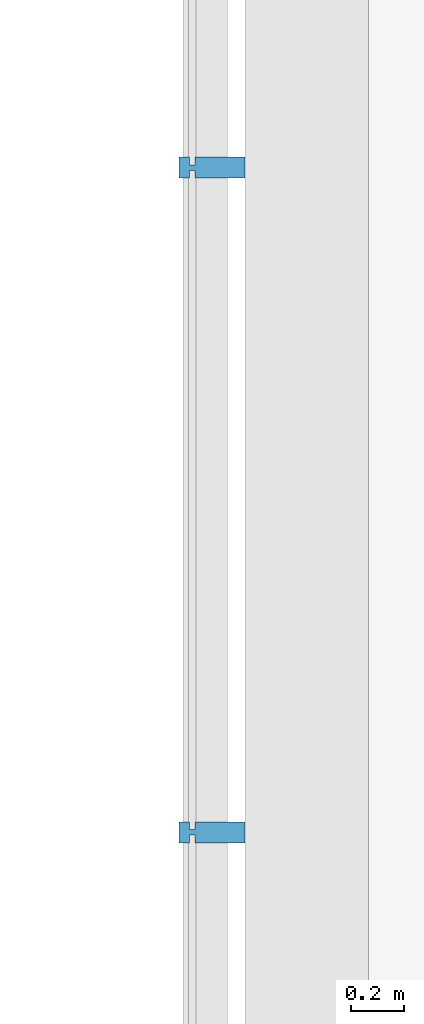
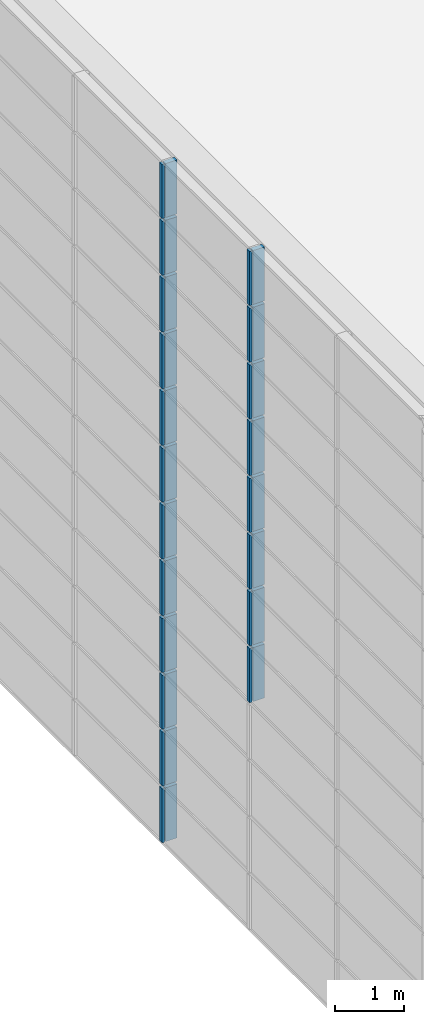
# One storey, part 72 of 105: 20 building element parts, 4 elements without a shape of their own.
"""IFC4 building model written with IfcOpenShell, lengths in millimetres."""

from ifc_helpers import new_model, entity, si_unit, converted_unit, derived_unit, direction, frame, origin_with_axes, place, context, subcontext, project, spatial, triangles, material, element, aggregate, save


model = new_model("IFC4")

# Units and contexts
model_context = context("Model", 3, precision=1e-05, world=origin_with_axes(), true_north=direction((0.0, 1.0)))
body_context = subcontext(model_context, "Body", "Model", "MODEL_VIEW")
ifc_project = project(units=[si_unit("LENGTHUNIT", "METRE", prefix="MILLI"), si_unit("AREAUNIT", "SQUARE_METRE"), si_unit("VOLUMEUNIT", "CUBIC_METRE"), converted_unit("PLANEANGLEUNIT", "DEGREE", entity("IfcLengthMeasure", 0.017453), si_unit("PLANEANGLEUNIT", "RADIAN"), dimensions=[0, 0, 0, 0, 0, 0, 0]), si_unit("SOLIDANGLEUNIT", "STERADIAN"), si_unit("MASSUNIT", "GRAM"), si_unit("TIMEUNIT", "SECOND"), si_unit("THERMODYNAMICTEMPERATUREUNIT", "DEGREE_CELSIUS"), si_unit("LUMINOUSINTENSITYUNIT", "LUMEN"), si_unit("POWERUNIT", "WATT"), derived_unit("THERMALTRANSMITTANCEUNIT", [(si_unit("POWERUNIT", "WATT"), 1), (si_unit("THERMODYNAMICTEMPERATUREUNIT", "KELVIN"), -1), (si_unit("AREAUNIT", "SQUARE_METRE"), -1)])], contexts=[model_context])

# Site, building, storey
site_placement = place(None, origin_with_axes())
site = spatial("IfcSite", under=ifc_project, at=site_placement, Name="Default Site", CompositionType="ELEMENT")
building_placement = place(site_placement, origin_with_axes())
building = spatial("IfcBuilding", under=site, at=building_placement, Name="Default Building", CompositionType="ELEMENT")
storey_placement = place(building_placement, origin_with_axes())
storey = spatial("IfcBuildingStorey", under=building, at=storey_placement, Name="OG - Story", CompositionType="ELEMENT", Elevation=0.0)

# Curtain wall, building element parts
curtain_wall_1_placement = place(storey_placement, origin_with_axes())
curtain_wall_1 = element("IfcCurtainWall", 1, at=curtain_wall_1_placement, inside=storey, Name="Fassade-003", PredefinedType="NOTDEFINED")
ifc_material = material(Name="Blech")
building_element_part_1_placement = place(curtain_wall_1_placement, frame((31551.391327, -51326.104944, 0.0), z_axis=(0.0, 0.0, 1.0), x_axis=(1.0, 0.0, 0.0)))
building_element_part_1 = element("IfcBuildingElementPart", 2, at=building_element_part_1_placement, material=ifc_material, Name="Blech", PredefinedType="NOTDEFINED", context=body_context, shape_type="Tessellation", body=[
    triangles([(200.0, 23960.0, 975.0), (10.0, 23960.0, 975.0), (200.0, 24040.0, 975.0), (10.0, 23990.0, 975.0), (10.0, 24010.0, 975.0), (-9.999, 23990.0, 975.0), (-9.999, 24010.0, 975.0), (-9.999, 24040.0, 975.0), (-9.999, 23960.0, 975.0), (-49.999, 23960.0, 975.0), (-49.999, 24040.0, 975.0), (10.0, 24040.0, 975.0), (10.0, 24010.0, 25.0), (-9.999, 24010.0, 25.0), (-9.999, 24040.0, 25.0), (-49.999, 24040.0, 25.0), (-49.999, 23960.0, 25.0), (-9.999, 23960.0, 25.0), (-9.999, 23990.0, 25.0), (10.0, 23990.0, 25.0), (10.0, 23960.0, 25.0), (200.0, 23960.0, 25.0), (200.0, 24040.0, 25.0), (10.0, 24040.0, 25.0)], [[1, 2, 3], [3, 2, 4], [3, 4, 5], [5, 4, 6], [5, 6, 7], [8, 9, 10], [8, 10, 11], [3, 5, 12], [5, 13, 14], [5, 14, 7], [7, 14, 15], [7, 15, 8], [15, 16, 11], [15, 11, 8], [10, 11, 16], [10, 16, 17], [18, 9, 10], [18, 10, 17], [9, 18, 19], [9, 19, 6], [4, 6, 19], [4, 19, 20], [2, 4, 20], [2, 20, 21], [2, 21, 22], [2, 22, 1], [3, 1, 22], [3, 22, 23], [12, 3, 23], [12, 23, 24], [12, 24, 13], [12, 13, 5], [23, 24, 22], [22, 24, 13], [22, 13, 20], [20, 13, 14], [20, 14, 19], [18, 15, 16], [18, 16, 17], [22, 20, 21]], closed=False),
])
building_element_part_2_placement = place(curtain_wall_1_placement, frame((31551.391327, -51326.104944, 0.0), z_axis=(0.0, 0.0, 1.0), x_axis=(1.0, 0.0, 0.0)))
building_element_part_2 = element("IfcBuildingElementPart", 3, at=building_element_part_2_placement, material=ifc_material, Name="Blech", PredefinedType="NOTDEFINED", context=body_context, shape_type="Tessellation", body=[
    triangles([(200.0, 23960.0, 1975.0), (10.0, 23960.0, 1975.0), (200.0, 24040.0, 1975.0), (10.0, 23990.0, 1975.0), (10.0, 24010.0, 1975.0), (-9.999, 23990.0, 1975.0), (-9.999, 24010.0, 1975.0), (-9.999, 24040.0, 1975.0), (-9.999, 23960.0, 1975.0), (-49.999, 23960.0, 1975.0), (-49.999, 24040.0, 1975.0), (10.0, 24040.0, 1975.0), (10.0, 24010.0, 1025.0), (-9.999, 24010.0, 1025.0), (-9.999, 24040.0, 1025.0), (-49.999, 24040.0, 1025.0), (-49.999, 23960.0, 1025.0), (-9.999, 23960.0, 1025.0), (-9.999, 23990.0, 1025.0), (10.0, 23990.0, 1025.0), (10.0, 23960.0, 1025.0), (200.0, 23960.0, 1025.0), (200.0, 24040.0, 1025.0), (10.0, 24040.0, 1025.0)], [[1, 2, 3], [3, 2, 4], [3, 4, 5], [5, 4, 6], [5, 6, 7], [8, 9, 10], [8, 10, 11], [3, 5, 12], [5, 13, 14], [5, 14, 7], [7, 14, 15], [7, 15, 8], [15, 16, 11], [15, 11, 8], [10, 11, 16], [10, 16, 17], [18, 9, 10], [18, 10, 17], [9, 18, 19], [9, 19, 6], [4, 6, 19], [4, 19, 20], [2, 4, 20], [2, 20, 21], [2, 21, 22], [2, 22, 1], [3, 1, 22], [3, 22, 23], [12, 3, 23], [12, 23, 24], [12, 24, 13], [12, 13, 5], [23, 24, 22], [22, 24, 13], [22, 13, 20], [20, 13, 14], [20, 14, 19], [18, 15, 16], [18, 16, 17], [22, 20, 21]], closed=False),
])
building_element_part_3_placement = place(curtain_wall_1_placement, frame((31551.391327, -51326.104944, 0.0), z_axis=(0.0, 0.0, 1.0), x_axis=(1.0, 0.0, 0.0)))
building_element_part_3 = element("IfcBuildingElementPart", 4, at=building_element_part_3_placement, material=ifc_material, Name="Blech", PredefinedType="NOTDEFINED", context=body_context, shape_type="Tessellation", body=[
    triangles([(200.0, 23960.0, 2975.0), (10.0, 23960.0, 2975.0), (200.0, 24040.0, 2975.0), (10.0, 23990.0, 2975.0), (10.0, 24010.0, 2975.0), (-9.999, 23990.0, 2975.0), (-9.999, 24010.0, 2975.0), (-9.999, 24040.0, 2975.0), (-9.999, 23960.0, 2975.0), (-49.999, 23960.0, 2975.0), (-49.999, 24040.0, 2975.0), (10.0, 24040.0, 2975.0), (10.0, 24010.0, 2025.0), (-9.999, 24010.0, 2025.0), (-9.999, 24040.0, 2025.0), (-49.999, 24040.0, 2025.0), (-49.999, 23960.0, 2025.0), (-9.999, 23960.0, 2025.0), (-9.999, 23990.0, 2025.0), (10.0, 23990.0, 2025.0), (10.0, 23960.0, 2025.0), (200.0, 23960.0, 2025.0), (200.0, 24040.0, 2025.0), (10.0, 24040.0, 2025.0)], [[1, 2, 3], [3, 2, 4], [3, 4, 5], [5, 4, 6], [5, 6, 7], [8, 9, 10], [8, 10, 11], [3, 5, 12], [5, 13, 14], [5, 14, 7], [7, 14, 15], [7, 15, 8], [15, 16, 11], [15, 11, 8], [10, 11, 16], [10, 16, 17], [18, 9, 10], [18, 10, 17], [9, 18, 19], [9, 19, 6], [4, 6, 19], [4, 19, 20], [2, 4, 20], [2, 20, 21], [2, 21, 22], [2, 22, 1], [3, 1, 22], [3, 22, 23], [12, 3, 23], [12, 23, 24], [12, 24, 13], [12, 13, 5], [23, 24, 22], [22, 24, 13], [22, 13, 20], [20, 13, 14], [20, 14, 19], [18, 15, 16], [18, 16, 17], [22, 20, 21]], closed=False),
])
aggregate(curtain_wall_1, [building_element_part_1, building_element_part_2, building_element_part_3])

curtain_wall_2_placement = place(storey_placement, origin_with_axes())
curtain_wall_2 = element("IfcCurtainWall", 5, at=curtain_wall_2_placement, inside=storey, Name="Fassade-003", PredefinedType="NOTDEFINED")
building_element_part_4_placement = place(curtain_wall_2_placement, frame((31551.391327, -51326.104944, 3000.0), z_axis=(0.0, 0.0, 1.0), x_axis=(1.0, 0.0, 0.0)))
building_element_part_4 = element("IfcBuildingElementPart", 6, at=building_element_part_4_placement, material=ifc_material, Name="Blech", PredefinedType="NOTDEFINED", context=body_context, shape_type="Tessellation", body=[
    triangles([(200.0, 23960.0, 975.0), (10.0, 23960.0, 975.0), (200.0, 24040.0, 975.0), (10.0, 23990.0, 975.0), (10.0, 24010.0, 975.0), (-9.999, 23990.0, 975.0), (-9.999, 24010.0, 975.0), (-9.999, 24040.0, 975.0), (-9.999, 23960.0, 975.0), (-49.999, 23960.0, 975.0), (-49.999, 24040.0, 975.0), (10.0, 24040.0, 975.0), (10.0, 24010.0, 25.0), (-9.999, 24010.0, 25.0), (-9.999, 24040.0, 25.0), (-49.999, 24040.0, 25.0), (-49.999, 23960.0, 25.0), (-9.999, 23960.0, 25.0), (-9.999, 23990.0, 25.0), (10.0, 23990.0, 25.0), (10.0, 23960.0, 25.0), (200.0, 23960.0, 25.0), (200.0, 24040.0, 25.0), (10.0, 24040.0, 25.0)], [[1, 2, 3], [3, 2, 4], [3, 4, 5], [5, 4, 6], [5, 6, 7], [8, 9, 10], [8, 10, 11], [3, 5, 12], [5, 13, 14], [5, 14, 7], [7, 14, 15], [7, 15, 8], [15, 16, 11], [15, 11, 8], [10, 11, 16], [10, 16, 17], [18, 9, 10], [18, 10, 17], [9, 18, 19], [9, 19, 6], [4, 6, 19], [4, 19, 20], [2, 4, 20], [2, 20, 21], [2, 21, 22], [2, 22, 1], [3, 1, 22], [3, 22, 23], [12, 3, 23], [12, 23, 24], [12, 24, 13], [12, 13, 5], [23, 24, 22], [22, 24, 13], [22, 13, 20], [20, 13, 14], [20, 14, 19], [18, 15, 16], [18, 16, 17], [22, 20, 21]], closed=False),
])
building_element_part_5_placement = place(curtain_wall_2_placement, frame((31551.391327, -51326.104944, 3000.0), z_axis=(0.0, 0.0, 1.0), x_axis=(1.0, 0.0, 0.0)))
building_element_part_5 = element("IfcBuildingElementPart", 7, at=building_element_part_5_placement, material=ifc_material, Name="Blech", PredefinedType="NOTDEFINED", context=body_context, shape_type="Tessellation", body=[
    triangles([(200.0, 21433.684, 1975.0), (10.0, 21433.684, 1975.0), (200.0, 21513.684, 1975.0), (10.0, 21463.684, 1975.0), (10.0, 21483.684, 1975.0), (-9.999, 21463.684, 1975.0), (-9.999, 21483.684, 1975.0), (-9.999, 21513.684, 1975.0), (-9.999, 21433.684, 1975.0), (-49.999, 21433.684, 1975.0), (-49.999, 21513.684, 1975.0), (10.0, 21513.684, 1975.0), (10.0, 21483.684, 1025.0), (-9.999, 21483.684, 1025.0), (-9.999, 21513.684, 1025.0), (-49.999, 21513.684, 1025.0), (-49.999, 21433.684, 1025.0), (-9.999, 21433.684, 1025.0), (-9.999, 21463.684, 1025.0), (10.0, 21463.684, 1025.0), (10.0, 21433.684, 1025.0), (200.0, 21433.684, 1025.0), (200.0, 21513.684, 1025.0), (10.0, 21513.684, 1025.0)], [[1, 2, 3], [3, 2, 4], [3, 4, 5], [5, 4, 6], [5, 6, 7], [8, 9, 10], [8, 10, 11], [3, 5, 12], [5, 13, 14], [5, 14, 7], [7, 14, 15], [7, 15, 8], [15, 16, 11], [15, 11, 8], [10, 11, 16], [10, 16, 17], [18, 9, 10], [18, 10, 17], [9, 18, 19], [9, 19, 6], [4, 6, 19], [4, 19, 20], [2, 4, 20], [2, 20, 21], [2, 21, 22], [2, 22, 1], [3, 1, 22], [3, 22, 23], [12, 3, 23], [12, 23, 24], [12, 24, 13], [12, 13, 5], [23, 24, 22], [22, 24, 13], [22, 13, 20], [20, 13, 14], [20, 14, 19], [18, 15, 16], [18, 16, 17], [22, 20, 21]], closed=False),
])
building_element_part_6_placement = place(curtain_wall_2_placement, frame((31551.391327, -51326.104944, 3000.0), z_axis=(0.0, 0.0, 1.0), x_axis=(1.0, 0.0, 0.0)))
building_element_part_6 = element("IfcBuildingElementPart", 8, at=building_element_part_6_placement, material=ifc_material, Name="Blech", PredefinedType="NOTDEFINED", context=body_context, shape_type="Tessellation", body=[
    triangles([(200.0, 23960.0, 1975.0), (10.0, 23960.0, 1975.0), (200.0, 24040.0, 1975.0), (10.0, 23990.0, 1975.0), (10.0, 24010.0, 1975.0), (-9.999, 23990.0, 1975.0), (-9.999, 24010.0, 1975.0), (-9.999, 24040.0, 1975.0), (-9.999, 23960.0, 1975.0), (-49.999, 23960.0, 1975.0), (-49.999, 24040.0, 1975.0), (10.0, 24040.0, 1975.0), (10.0, 24010.0, 1025.0), (-9.999, 24010.0, 1025.0), (-9.999, 24040.0, 1025.0), (-49.999, 24040.0, 1025.0), (-49.999, 23960.0, 1025.0), (-9.999, 23960.0, 1025.0), (-9.999, 23990.0, 1025.0), (10.0, 23990.0, 1025.0), (10.0, 23960.0, 1025.0), (200.0, 23960.0, 1025.0), (200.0, 24040.0, 1025.0), (10.0, 24040.0, 1025.0)], [[1, 2, 3], [3, 2, 4], [3, 4, 5], [5, 4, 6], [5, 6, 7], [8, 9, 10], [8, 10, 11], [3, 5, 12], [5, 13, 14], [5, 14, 7], [7, 14, 15], [7, 15, 8], [15, 16, 11], [15, 11, 8], [10, 11, 16], [10, 16, 17], [18, 9, 10], [18, 10, 17], [9, 18, 19], [9, 19, 6], [4, 6, 19], [4, 19, 20], [2, 4, 20], [2, 20, 21], [2, 21, 22], [2, 22, 1], [3, 1, 22], [3, 22, 23], [12, 3, 23], [12, 23, 24], [12, 24, 13], [12, 13, 5], [23, 24, 22], [22, 24, 13], [22, 13, 20], [20, 13, 14], [20, 14, 19], [18, 15, 16], [18, 16, 17], [22, 20, 21]], closed=False),
])
building_element_part_7_placement = place(curtain_wall_2_placement, frame((31551.391327, -51326.104944, 3000.0), z_axis=(0.0, 0.0, 1.0), x_axis=(1.0, 0.0, 0.0)))
building_element_part_7 = element("IfcBuildingElementPart", 9, at=building_element_part_7_placement, material=ifc_material, Name="Blech", PredefinedType="NOTDEFINED", context=body_context, shape_type="Tessellation", body=[
    triangles([(200.0, 21433.684, 2975.0), (10.0, 21433.684, 2975.0), (200.0, 21513.684, 2975.0), (10.0, 21463.684, 2975.0), (10.0, 21483.684, 2975.0), (-9.999, 21463.684, 2975.0), (-9.999, 21483.684, 2975.0), (-9.999, 21513.684, 2975.0), (-9.999, 21433.684, 2975.0), (-49.999, 21433.684, 2975.0), (-49.999, 21513.684, 2975.0), (10.0, 21513.684, 2975.0), (10.0, 21483.684, 2025.0), (-9.999, 21483.684, 2025.0), (-9.999, 21513.684, 2025.0), (-49.999, 21513.684, 2025.0), (-49.999, 21433.684, 2025.0), (-9.999, 21433.684, 2025.0), (-9.999, 21463.684, 2025.0), (10.0, 21463.684, 2025.0), (10.0, 21433.684, 2025.0), (200.0, 21433.684, 2025.0), (200.0, 21513.684, 2025.0), (10.0, 21513.684, 2025.0)], [[1, 2, 3], [3, 2, 4], [3, 4, 5], [5, 4, 6], [5, 6, 7], [8, 9, 10], [8, 10, 11], [3, 5, 12], [5, 13, 14], [5, 14, 7], [7, 14, 15], [7, 15, 8], [15, 16, 11], [15, 11, 8], [10, 11, 16], [10, 16, 17], [18, 9, 10], [18, 10, 17], [9, 18, 19], [9, 19, 6], [4, 6, 19], [4, 19, 20], [2, 4, 20], [2, 20, 21], [2, 21, 22], [2, 22, 1], [3, 1, 22], [3, 22, 23], [12, 3, 23], [12, 23, 24], [12, 24, 13], [12, 13, 5], [23, 24, 22], [22, 24, 13], [22, 13, 20], [20, 13, 14], [20, 14, 19], [18, 15, 16], [18, 16, 17], [22, 20, 21]], closed=False),
])
building_element_part_8_placement = place(curtain_wall_2_placement, frame((31551.391327, -51326.104944, 3000.0), z_axis=(0.0, 0.0, 1.0), x_axis=(1.0, 0.0, 0.0)))
building_element_part_8 = element("IfcBuildingElementPart", 10, at=building_element_part_8_placement, material=ifc_material, Name="Blech", PredefinedType="NOTDEFINED", context=body_context, shape_type="Tessellation", body=[
    triangles([(200.0, 23960.0, 2975.0), (10.0, 23960.0, 2975.0), (200.0, 24040.0, 2975.0), (10.0, 23990.0, 2975.0), (10.0, 24010.0, 2975.0), (-9.999, 23990.0, 2975.0), (-9.999, 24010.0, 2975.0), (-9.999, 24040.0, 2975.0), (-9.999, 23960.0, 2975.0), (-49.999, 23960.0, 2975.0), (-49.999, 24040.0, 2975.0), (10.0, 24040.0, 2975.0), (10.0, 24010.0, 2025.0), (-9.999, 24010.0, 2025.0), (-9.999, 24040.0, 2025.0), (-49.999, 24040.0, 2025.0), (-49.999, 23960.0, 2025.0), (-9.999, 23960.0, 2025.0), (-9.999, 23990.0, 2025.0), (10.0, 23990.0, 2025.0), (10.0, 23960.0, 2025.0), (200.0, 23960.0, 2025.0), (200.0, 24040.0, 2025.0), (10.0, 24040.0, 2025.0)], [[1, 2, 3], [3, 2, 4], [3, 4, 5], [5, 4, 6], [5, 6, 7], [8, 9, 10], [8, 10, 11], [3, 5, 12], [5, 13, 14], [5, 14, 7], [7, 14, 15], [7, 15, 8], [15, 16, 11], [15, 11, 8], [10, 11, 16], [10, 16, 17], [18, 9, 10], [18, 10, 17], [9, 18, 19], [9, 19, 6], [4, 6, 19], [4, 19, 20], [2, 4, 20], [2, 20, 21], [2, 21, 22], [2, 22, 1], [3, 1, 22], [3, 22, 23], [12, 3, 23], [12, 23, 24], [12, 24, 13], [12, 13, 5], [23, 24, 22], [22, 24, 13], [22, 13, 20], [20, 13, 14], [20, 14, 19], [18, 15, 16], [18, 16, 17], [22, 20, 21]], closed=False),
])
aggregate(curtain_wall_2, [building_element_part_4, building_element_part_5, building_element_part_6, building_element_part_7, building_element_part_8])

curtain_wall_3_placement = place(storey_placement, origin_with_axes())
curtain_wall_3 = element("IfcCurtainWall", 11, at=curtain_wall_3_placement, inside=storey, Name="Fassade-003", PredefinedType="NOTDEFINED")
building_element_part_9_placement = place(curtain_wall_3_placement, frame((31551.391327, -51326.104944, 6000.0), z_axis=(0.0, 0.0, 1.0), x_axis=(1.0, 0.0, 0.0)))
building_element_part_9 = element("IfcBuildingElementPart", 12, at=building_element_part_9_placement, material=ifc_material, Name="Blech", PredefinedType="NOTDEFINED", context=body_context, shape_type="Tessellation", body=[
    triangles([(200.0, 21433.684, 975.0), (10.0, 21433.684, 975.0), (200.0, 21513.684, 975.0), (10.0, 21463.684, 975.0), (10.0, 21483.684, 975.0), (-9.999, 21463.684, 975.0), (-9.999, 21483.684, 975.0), (-9.999, 21513.684, 975.0), (-9.999, 21433.684, 975.0), (-49.999, 21433.684, 975.0), (-49.999, 21513.684, 975.0), (10.0, 21513.684, 975.0), (10.0, 21483.684, 25.0), (-9.999, 21483.684, 25.0), (-9.999, 21513.684, 25.0), (-49.999, 21513.684, 25.0), (-49.999, 21433.684, 25.0), (-9.999, 21433.684, 25.0), (-9.999, 21463.684, 25.0), (10.0, 21463.684, 25.0), (10.0, 21433.684, 25.0), (200.0, 21433.684, 25.0), (200.0, 21513.684, 25.0), (10.0, 21513.684, 25.0)], [[1, 2, 3], [3, 2, 4], [3, 4, 5], [5, 4, 6], [5, 6, 7], [8, 9, 10], [8, 10, 11], [3, 5, 12], [5, 13, 14], [5, 14, 7], [7, 14, 15], [7, 15, 8], [15, 16, 11], [15, 11, 8], [10, 11, 16], [10, 16, 17], [18, 9, 10], [18, 10, 17], [9, 18, 19], [9, 19, 6], [4, 6, 19], [4, 19, 20], [2, 4, 20], [2, 20, 21], [2, 21, 22], [2, 22, 1], [3, 1, 22], [3, 22, 23], [12, 3, 23], [12, 23, 24], [12, 24, 13], [12, 13, 5], [23, 24, 22], [22, 24, 13], [22, 13, 20], [20, 13, 14], [20, 14, 19], [18, 15, 16], [18, 16, 17], [22, 20, 21]], closed=False),
])
building_element_part_10_placement = place(curtain_wall_3_placement, frame((31551.391327, -51326.104944, 6000.0), z_axis=(0.0, 0.0, 1.0), x_axis=(1.0, 0.0, 0.0)))
building_element_part_10 = element("IfcBuildingElementPart", 13, at=building_element_part_10_placement, material=ifc_material, Name="Blech", PredefinedType="NOTDEFINED", context=body_context, shape_type="Tessellation", body=[
    triangles([(200.0, 23960.0, 975.0), (10.0, 23960.0, 975.0), (200.0, 24040.0, 975.0), (10.0, 23990.0, 975.0), (10.0, 24010.0, 975.0), (-9.999, 23990.0, 975.0), (-9.999, 24010.0, 975.0), (-9.999, 24040.0, 975.0), (-9.999, 23960.0, 975.0), (-49.999, 23960.0, 975.0), (-49.999, 24040.0, 975.0), (10.0, 24040.0, 975.0), (10.0, 24010.0, 25.0), (-9.999, 24010.0, 25.0), (-9.999, 24040.0, 25.0), (-49.999, 24040.0, 25.0), (-49.999, 23960.0, 25.0), (-9.999, 23960.0, 25.0), (-9.999, 23990.0, 25.0), (10.0, 23990.0, 25.0), (10.0, 23960.0, 25.0), (200.0, 23960.0, 25.0), (200.0, 24040.0, 25.0), (10.0, 24040.0, 25.0)], [[1, 2, 3], [3, 2, 4], [3, 4, 5], [5, 4, 6], [5, 6, 7], [8, 9, 10], [8, 10, 11], [3, 5, 12], [5, 13, 14], [5, 14, 7], [7, 14, 15], [7, 15, 8], [15, 16, 11], [15, 11, 8], [10, 11, 16], [10, 16, 17], [18, 9, 10], [18, 10, 17], [9, 18, 19], [9, 19, 6], [4, 6, 19], [4, 19, 20], [2, 4, 20], [2, 20, 21], [2, 21, 22], [2, 22, 1], [3, 1, 22], [3, 22, 23], [12, 3, 23], [12, 23, 24], [12, 24, 13], [12, 13, 5], [23, 24, 22], [22, 24, 13], [22, 13, 20], [20, 13, 14], [20, 14, 19], [18, 15, 16], [18, 16, 17], [22, 20, 21]], closed=False),
])
building_element_part_11_placement = place(curtain_wall_3_placement, frame((31551.391327, -51326.104944, 6000.0), z_axis=(0.0, 0.0, 1.0), x_axis=(1.0, 0.0, 0.0)))
building_element_part_11 = element("IfcBuildingElementPart", 14, at=building_element_part_11_placement, material=ifc_material, Name="Blech", PredefinedType="NOTDEFINED", context=body_context, shape_type="Tessellation", body=[
    triangles([(200.0, 21433.684, 1975.0), (10.0, 21433.684, 1975.0), (200.0, 21513.684, 1975.0), (10.0, 21463.684, 1975.0), (10.0, 21483.684, 1975.0), (-9.999, 21463.684, 1975.0), (-9.999, 21483.684, 1975.0), (-9.999, 21513.684, 1975.0), (-9.999, 21433.684, 1975.0), (-49.999, 21433.684, 1975.0), (-49.999, 21513.684, 1975.0), (10.0, 21513.684, 1975.0), (10.0, 21483.684, 1025.0), (-9.999, 21483.684, 1025.0), (-9.999, 21513.684, 1025.0), (-49.999, 21513.684, 1025.0), (-49.999, 21433.684, 1025.0), (-9.999, 21433.684, 1025.0), (-9.999, 21463.684, 1025.0), (10.0, 21463.684, 1025.0), (10.0, 21433.684, 1025.0), (200.0, 21433.684, 1025.0), (200.0, 21513.684, 1025.0), (10.0, 21513.684, 1025.0)], [[1, 2, 3], [3, 2, 4], [3, 4, 5], [5, 4, 6], [5, 6, 7], [8, 9, 10], [8, 10, 11], [3, 5, 12], [5, 13, 14], [5, 14, 7], [7, 14, 15], [7, 15, 8], [15, 16, 11], [15, 11, 8], [10, 11, 16], [10, 16, 17], [18, 9, 10], [18, 10, 17], [9, 18, 19], [9, 19, 6], [4, 6, 19], [4, 19, 20], [2, 4, 20], [2, 20, 21], [2, 21, 22], [2, 22, 1], [3, 1, 22], [3, 22, 23], [12, 3, 23], [12, 23, 24], [12, 24, 13], [12, 13, 5], [23, 24, 22], [22, 24, 13], [22, 13, 20], [20, 13, 14], [20, 14, 19], [18, 15, 16], [18, 16, 17], [22, 20, 21]], closed=False),
])
building_element_part_12_placement = place(curtain_wall_3_placement, frame((31551.391327, -51326.104944, 6000.0), z_axis=(0.0, 0.0, 1.0), x_axis=(1.0, 0.0, 0.0)))
building_element_part_12 = element("IfcBuildingElementPart", 15, at=building_element_part_12_placement, material=ifc_material, Name="Blech", PredefinedType="NOTDEFINED", context=body_context, shape_type="Tessellation", body=[
    triangles([(200.0, 23960.0, 1975.0), (10.0, 23960.0, 1975.0), (200.0, 24040.0, 1975.0), (10.0, 23990.0, 1975.0), (10.0, 24010.0, 1975.0), (-9.999, 23990.0, 1975.0), (-9.999, 24010.0, 1975.0), (-9.999, 24040.0, 1975.0), (-9.999, 23960.0, 1975.0), (-49.999, 23960.0, 1975.0), (-49.999, 24040.0, 1975.0), (10.0, 24040.0, 1975.0), (10.0, 24010.0, 1025.0), (-9.999, 24010.0, 1025.0), (-9.999, 24040.0, 1025.0), (-49.999, 24040.0, 1025.0), (-49.999, 23960.0, 1025.0), (-9.999, 23960.0, 1025.0), (-9.999, 23990.0, 1025.0), (10.0, 23990.0, 1025.0), (10.0, 23960.0, 1025.0), (200.0, 23960.0, 1025.0), (200.0, 24040.0, 1025.0), (10.0, 24040.0, 1025.0)], [[1, 2, 3], [3, 2, 4], [3, 4, 5], [5, 4, 6], [5, 6, 7], [8, 9, 10], [8, 10, 11], [3, 5, 12], [5, 13, 14], [5, 14, 7], [7, 14, 15], [7, 15, 8], [15, 16, 11], [15, 11, 8], [10, 11, 16], [10, 16, 17], [18, 9, 10], [18, 10, 17], [9, 18, 19], [9, 19, 6], [4, 6, 19], [4, 19, 20], [2, 4, 20], [2, 20, 21], [2, 21, 22], [2, 22, 1], [3, 1, 22], [3, 22, 23], [12, 3, 23], [12, 23, 24], [12, 24, 13], [12, 13, 5], [23, 24, 22], [22, 24, 13], [22, 13, 20], [20, 13, 14], [20, 14, 19], [18, 15, 16], [18, 16, 17], [22, 20, 21]], closed=False),
])
building_element_part_13_placement = place(curtain_wall_3_placement, frame((31551.391327, -51326.104944, 6000.0), z_axis=(0.0, 0.0, 1.0), x_axis=(1.0, 0.0, 0.0)))
building_element_part_13 = element("IfcBuildingElementPart", 16, at=building_element_part_13_placement, material=ifc_material, Name="Blech", PredefinedType="NOTDEFINED", context=body_context, shape_type="Tessellation", body=[
    triangles([(200.0, 21433.684, 2975.0), (10.0, 21433.684, 2975.0), (200.0, 21513.684, 2975.0), (10.0, 21463.684, 2975.0), (10.0, 21483.684, 2975.0), (-9.999, 21463.684, 2975.0), (-9.999, 21483.684, 2975.0), (-9.999, 21513.684, 2975.0), (-9.999, 21433.684, 2975.0), (-49.999, 21433.684, 2975.0), (-49.999, 21513.684, 2975.0), (10.0, 21513.684, 2975.0), (10.0, 21483.684, 2025.0), (-9.999, 21483.684, 2025.0), (-9.999, 21513.684, 2025.0), (-49.999, 21513.684, 2025.0), (-49.999, 21433.684, 2025.0), (-9.999, 21433.684, 2025.0), (-9.999, 21463.684, 2025.0), (10.0, 21463.684, 2025.0), (10.0, 21433.684, 2025.0), (200.0, 21433.684, 2025.0), (200.0, 21513.684, 2025.0), (10.0, 21513.684, 2025.0)], [[1, 2, 3], [3, 2, 4], [3, 4, 5], [5, 4, 6], [5, 6, 7], [8, 9, 10], [8, 10, 11], [3, 5, 12], [5, 13, 14], [5, 14, 7], [7, 14, 15], [7, 15, 8], [15, 16, 11], [15, 11, 8], [10, 11, 16], [10, 16, 17], [18, 9, 10], [18, 10, 17], [9, 18, 19], [9, 19, 6], [4, 6, 19], [4, 19, 20], [2, 4, 20], [2, 20, 21], [2, 21, 22], [2, 22, 1], [3, 1, 22], [3, 22, 23], [12, 3, 23], [12, 23, 24], [12, 24, 13], [12, 13, 5], [23, 24, 22], [22, 24, 13], [22, 13, 20], [20, 13, 14], [20, 14, 19], [18, 15, 16], [18, 16, 17], [22, 20, 21]], closed=False),
])
building_element_part_14_placement = place(curtain_wall_3_placement, frame((31551.391327, -51326.104944, 6000.0), z_axis=(0.0, 0.0, 1.0), x_axis=(1.0, 0.0, 0.0)))
building_element_part_14 = element("IfcBuildingElementPart", 17, at=building_element_part_14_placement, material=ifc_material, Name="Blech", PredefinedType="NOTDEFINED", context=body_context, shape_type="Tessellation", body=[
    triangles([(200.0, 23960.0, 2975.0), (10.0, 23960.0, 2975.0), (200.0, 24040.0, 2975.0), (10.0, 23990.0, 2975.0), (10.0, 24010.0, 2975.0), (-9.999, 23990.0, 2975.0), (-9.999, 24010.0, 2975.0), (-9.999, 24040.0, 2975.0), (-9.999, 23960.0, 2975.0), (-49.999, 23960.0, 2975.0), (-49.999, 24040.0, 2975.0), (10.0, 24040.0, 2975.0), (10.0, 24010.0, 2025.0), (-9.999, 24010.0, 2025.0), (-9.999, 24040.0, 2025.0), (-49.999, 24040.0, 2025.0), (-49.999, 23960.0, 2025.0), (-9.999, 23960.0, 2025.0), (-9.999, 23990.0, 2025.0), (10.0, 23990.0, 2025.0), (10.0, 23960.0, 2025.0), (200.0, 23960.0, 2025.0), (200.0, 24040.0, 2025.0), (10.0, 24040.0, 2025.0)], [[1, 2, 3], [3, 2, 4], [3, 4, 5], [5, 4, 6], [5, 6, 7], [8, 9, 10], [8, 10, 11], [3, 5, 12], [5, 13, 14], [5, 14, 7], [7, 14, 15], [7, 15, 8], [15, 16, 11], [15, 11, 8], [10, 11, 16], [10, 16, 17], [18, 9, 10], [18, 10, 17], [9, 18, 19], [9, 19, 6], [4, 6, 19], [4, 19, 20], [2, 4, 20], [2, 20, 21], [2, 21, 22], [2, 22, 1], [3, 1, 22], [3, 22, 23], [12, 3, 23], [12, 23, 24], [12, 24, 13], [12, 13, 5], [23, 24, 22], [22, 24, 13], [22, 13, 20], [20, 13, 14], [20, 14, 19], [18, 15, 16], [18, 16, 17], [22, 20, 21]], closed=False),
])
aggregate(curtain_wall_3, [building_element_part_9, building_element_part_10, building_element_part_11, building_element_part_12, building_element_part_13, building_element_part_14])

curtain_wall_4_placement = place(storey_placement, origin_with_axes())
curtain_wall_4 = element("IfcCurtainWall", 18, at=curtain_wall_4_placement, inside=storey, Name="Fassade-003", PredefinedType="NOTDEFINED")
building_element_part_15_placement = place(curtain_wall_4_placement, frame((31551.391327, -51326.104944, 9000.0), z_axis=(0.0, 0.0, 1.0), x_axis=(1.0, 0.0, 0.0)))
building_element_part_15 = element("IfcBuildingElementPart", 19, at=building_element_part_15_placement, material=ifc_material, Name="Blech", PredefinedType="NOTDEFINED", context=body_context, shape_type="Tessellation", body=[
    triangles([(200.0, 21433.684, 975.0), (10.0, 21433.684, 975.0), (200.0, 21513.684, 975.0), (10.0, 21463.684, 975.0), (10.0, 21483.684, 975.0), (-9.999, 21463.684, 975.0), (-9.999, 21483.684, 975.0), (-9.999, 21513.684, 975.0), (-9.999, 21433.684, 975.0), (-49.999, 21433.684, 975.0), (-49.999, 21513.684, 975.0), (10.0, 21513.684, 975.0), (10.0, 21483.684, 25.0), (-9.999, 21483.684, 25.0), (-9.999, 21513.684, 25.0), (-49.999, 21513.684, 25.0), (-49.999, 21433.684, 25.0), (-9.999, 21433.684, 25.0), (-9.999, 21463.684, 25.0), (10.0, 21463.684, 25.0), (10.0, 21433.684, 25.0), (200.0, 21433.684, 25.0), (200.0, 21513.684, 25.0), (10.0, 21513.684, 25.0)], [[1, 2, 3], [3, 2, 4], [3, 4, 5], [5, 4, 6], [5, 6, 7], [8, 9, 10], [8, 10, 11], [3, 5, 12], [5, 13, 14], [5, 14, 7], [7, 14, 15], [7, 15, 8], [15, 16, 11], [15, 11, 8], [10, 11, 16], [10, 16, 17], [18, 9, 10], [18, 10, 17], [9, 18, 19], [9, 19, 6], [4, 6, 19], [4, 19, 20], [2, 4, 20], [2, 20, 21], [2, 21, 22], [2, 22, 1], [3, 1, 22], [3, 22, 23], [12, 3, 23], [12, 23, 24], [12, 24, 13], [12, 13, 5], [23, 24, 22], [22, 24, 13], [22, 13, 20], [20, 13, 14], [20, 14, 19], [18, 15, 16], [18, 16, 17], [22, 20, 21]], closed=False),
])
building_element_part_16_placement = place(curtain_wall_4_placement, frame((31551.391327, -51326.104944, 9000.0), z_axis=(0.0, 0.0, 1.0), x_axis=(1.0, 0.0, 0.0)))
building_element_part_16 = element("IfcBuildingElementPart", 20, at=building_element_part_16_placement, material=ifc_material, Name="Blech", PredefinedType="NOTDEFINED", context=body_context, shape_type="Tessellation", body=[
    triangles([(200.0, 23960.0, 975.0), (10.0, 23960.0, 975.0), (200.0, 24040.0, 975.0), (10.0, 23990.0, 975.0), (10.0, 24010.0, 975.0), (-9.999, 23990.0, 975.0), (-9.999, 24010.0, 975.0), (-9.999, 24040.0, 975.0), (-9.999, 23960.0, 975.0), (-49.999, 23960.0, 975.0), (-49.999, 24040.0, 975.0), (10.0, 24040.0, 975.0), (10.0, 24010.0, 25.0), (-9.999, 24010.0, 25.0), (-9.999, 24040.0, 25.0), (-49.999, 24040.0, 25.0), (-49.999, 23960.0, 25.0), (-9.999, 23960.0, 25.0), (-9.999, 23990.0, 25.0), (10.0, 23990.0, 25.0), (10.0, 23960.0, 25.0), (200.0, 23960.0, 25.0), (200.0, 24040.0, 25.0), (10.0, 24040.0, 25.0)], [[1, 2, 3], [3, 2, 4], [3, 4, 5], [5, 4, 6], [5, 6, 7], [8, 9, 10], [8, 10, 11], [3, 5, 12], [5, 13, 14], [5, 14, 7], [7, 14, 15], [7, 15, 8], [15, 16, 11], [15, 11, 8], [10, 11, 16], [10, 16, 17], [18, 9, 10], [18, 10, 17], [9, 18, 19], [9, 19, 6], [4, 6, 19], [4, 19, 20], [2, 4, 20], [2, 20, 21], [2, 21, 22], [2, 22, 1], [3, 1, 22], [3, 22, 23], [12, 3, 23], [12, 23, 24], [12, 24, 13], [12, 13, 5], [23, 24, 22], [22, 24, 13], [22, 13, 20], [20, 13, 14], [20, 14, 19], [18, 15, 16], [18, 16, 17], [22, 20, 21]], closed=False),
])
building_element_part_17_placement = place(curtain_wall_4_placement, frame((31551.391327, -51326.104944, 9000.0), z_axis=(0.0, 0.0, 1.0), x_axis=(1.0, 0.0, 0.0)))
building_element_part_17 = element("IfcBuildingElementPart", 21, at=building_element_part_17_placement, material=ifc_material, Name="Blech", PredefinedType="NOTDEFINED", context=body_context, shape_type="Tessellation", body=[
    triangles([(200.0, 21433.684, 1975.0), (10.0, 21433.684, 1975.0), (200.0, 21513.684, 1975.0), (10.0, 21463.684, 1975.0), (10.0, 21483.684, 1975.0), (-9.999, 21463.684, 1975.0), (-9.999, 21483.684, 1975.0), (-9.999, 21513.684, 1975.0), (-9.999, 21433.684, 1975.0), (-49.999, 21433.684, 1975.0), (-49.999, 21513.684, 1975.0), (10.0, 21513.684, 1975.0), (10.0, 21483.684, 1025.0), (-9.999, 21483.684, 1025.0), (-9.999, 21513.684, 1025.0), (-49.999, 21513.684, 1025.0), (-49.999, 21433.684, 1025.0), (-9.999, 21433.684, 1025.0), (-9.999, 21463.684, 1025.0), (10.0, 21463.684, 1025.0), (10.0, 21433.684, 1025.0), (200.0, 21433.684, 1025.0), (200.0, 21513.684, 1025.0), (10.0, 21513.684, 1025.0)], [[1, 2, 3], [3, 2, 4], [3, 4, 5], [5, 4, 6], [5, 6, 7], [8, 9, 10], [8, 10, 11], [3, 5, 12], [5, 13, 14], [5, 14, 7], [7, 14, 15], [7, 15, 8], [15, 16, 11], [15, 11, 8], [10, 11, 16], [10, 16, 17], [18, 9, 10], [18, 10, 17], [9, 18, 19], [9, 19, 6], [4, 6, 19], [4, 19, 20], [2, 4, 20], [2, 20, 21], [2, 21, 22], [2, 22, 1], [3, 1, 22], [3, 22, 23], [12, 3, 23], [12, 23, 24], [12, 24, 13], [12, 13, 5], [23, 24, 22], [22, 24, 13], [22, 13, 20], [20, 13, 14], [20, 14, 19], [18, 15, 16], [18, 16, 17], [22, 20, 21]], closed=False),
])
building_element_part_18_placement = place(curtain_wall_4_placement, frame((31551.391327, -51326.104944, 9000.0), z_axis=(0.0, 0.0, 1.0), x_axis=(1.0, 0.0, 0.0)))
building_element_part_18 = element("IfcBuildingElementPart", 22, at=building_element_part_18_placement, material=ifc_material, Name="Blech", PredefinedType="NOTDEFINED", context=body_context, shape_type="Tessellation", body=[
    triangles([(200.0, 23960.0, 1975.0), (10.0, 23960.0, 1975.0), (200.0, 24040.0, 1975.0), (10.0, 23990.0, 1975.0), (10.0, 24010.0, 1975.0), (-9.999, 23990.0, 1975.0), (-9.999, 24010.0, 1975.0), (-9.999, 24040.0, 1975.0), (-9.999, 23960.0, 1975.0), (-49.999, 23960.0, 1975.0), (-49.999, 24040.0, 1975.0), (10.0, 24040.0, 1975.0), (10.0, 24010.0, 1025.0), (-9.999, 24010.0, 1025.0), (-9.999, 24040.0, 1025.0), (-49.999, 24040.0, 1025.0), (-49.999, 23960.0, 1025.0), (-9.999, 23960.0, 1025.0), (-9.999, 23990.0, 1025.0), (10.0, 23990.0, 1025.0), (10.0, 23960.0, 1025.0), (200.0, 23960.0, 1025.0), (200.0, 24040.0, 1025.0), (10.0, 24040.0, 1025.0)], [[1, 2, 3], [3, 2, 4], [3, 4, 5], [5, 4, 6], [5, 6, 7], [8, 9, 10], [8, 10, 11], [3, 5, 12], [5, 13, 14], [5, 14, 7], [7, 14, 15], [7, 15, 8], [15, 16, 11], [15, 11, 8], [10, 11, 16], [10, 16, 17], [18, 9, 10], [18, 10, 17], [9, 18, 19], [9, 19, 6], [4, 6, 19], [4, 19, 20], [2, 4, 20], [2, 20, 21], [2, 21, 22], [2, 22, 1], [3, 1, 22], [3, 22, 23], [12, 3, 23], [12, 23, 24], [12, 24, 13], [12, 13, 5], [23, 24, 22], [22, 24, 13], [22, 13, 20], [20, 13, 14], [20, 14, 19], [18, 15, 16], [18, 16, 17], [22, 20, 21]], closed=False),
])
building_element_part_19_placement = place(curtain_wall_4_placement, frame((31551.391327, -51326.104944, 9000.0), z_axis=(0.0, 0.0, 1.0), x_axis=(1.0, 0.0, 0.0)))
building_element_part_19 = element("IfcBuildingElementPart", 23, at=building_element_part_19_placement, material=ifc_material, Name="Blech", PredefinedType="NOTDEFINED", context=body_context, shape_type="Tessellation", body=[
    triangles([(200.0, 21433.684, 2975.0), (10.0, 21433.684, 2975.0), (200.0, 21513.684, 2975.0), (10.0, 21463.684, 2975.0), (10.0, 21483.684, 2975.0), (-9.999, 21463.684, 2975.0), (-9.999, 21483.684, 2975.0), (-9.999, 21513.684, 2975.0), (-9.999, 21433.684, 2975.0), (-49.999, 21433.684, 2975.0), (-49.999, 21513.684, 2975.0), (10.0, 21513.684, 2975.0), (10.0, 21483.684, 2025.0), (-9.999, 21483.684, 2025.0), (-9.999, 21513.684, 2025.0), (-49.999, 21513.684, 2025.0), (-49.999, 21433.684, 2025.0), (-9.999, 21433.684, 2025.0), (-9.999, 21463.684, 2025.0), (10.0, 21463.684, 2025.0), (10.0, 21433.684, 2025.0), (200.0, 21433.684, 2025.0), (200.0, 21513.684, 2025.0), (10.0, 21513.684, 2025.0)], [[1, 2, 3], [3, 2, 4], [3, 4, 5], [5, 4, 6], [5, 6, 7], [8, 9, 10], [8, 10, 11], [3, 5, 12], [5, 13, 14], [5, 14, 7], [7, 14, 15], [7, 15, 8], [15, 16, 11], [15, 11, 8], [10, 11, 16], [10, 16, 17], [18, 9, 10], [18, 10, 17], [9, 18, 19], [9, 19, 6], [4, 6, 19], [4, 19, 20], [2, 4, 20], [2, 20, 21], [2, 21, 22], [2, 22, 1], [3, 1, 22], [3, 22, 23], [12, 3, 23], [12, 23, 24], [12, 24, 13], [12, 13, 5], [23, 24, 22], [22, 24, 13], [22, 13, 20], [20, 13, 14], [20, 14, 19], [18, 15, 16], [18, 16, 17], [22, 20, 21]], closed=False),
])
building_element_part_20_placement = place(curtain_wall_4_placement, frame((31551.391327, -51326.104944, 9000.0), z_axis=(0.0, 0.0, 1.0), x_axis=(1.0, 0.0, 0.0)))
building_element_part_20 = element("IfcBuildingElementPart", 24, at=building_element_part_20_placement, material=ifc_material, Name="Blech", PredefinedType="NOTDEFINED", context=body_context, shape_type="Tessellation", body=[
    triangles([(200.0, 23960.0, 2975.0), (10.0, 23960.0, 2975.0), (200.0, 24040.0, 2975.0), (10.0, 23990.0, 2975.0), (10.0, 24010.0, 2975.0), (-9.999, 23990.0, 2975.0), (-9.999, 24010.0, 2975.0), (-9.999, 24040.0, 2975.0), (-9.999, 23960.0, 2975.0), (-49.999, 23960.0, 2975.0), (-49.999, 24040.0, 2975.0), (10.0, 24040.0, 2975.0), (10.0, 24010.0, 2025.0), (-9.999, 24010.0, 2025.0), (-9.999, 24040.0, 2025.0), (-49.999, 24040.0, 2025.0), (-49.999, 23960.0, 2025.0), (-9.999, 23960.0, 2025.0), (-9.999, 23990.0, 2025.0), (10.0, 23990.0, 2025.0), (10.0, 23960.0, 2025.0), (200.0, 23960.0, 2025.0), (200.0, 24040.0, 2025.0), (10.0, 24040.0, 2025.0)], [[1, 2, 3], [3, 2, 4], [3, 4, 5], [5, 4, 6], [5, 6, 7], [8, 9, 10], [8, 10, 11], [3, 5, 12], [5, 13, 14], [5, 14, 7], [7, 14, 15], [7, 15, 8], [15, 16, 11], [15, 11, 8], [10, 11, 16], [10, 16, 17], [18, 9, 10], [18, 10, 17], [9, 18, 19], [9, 19, 6], [4, 6, 19], [4, 19, 20], [2, 4, 20], [2, 20, 21], [2, 21, 22], [2, 22, 1], [3, 1, 22], [3, 22, 23], [12, 3, 23], [12, 23, 24], [12, 24, 13], [12, 13, 5], [23, 24, 22], [22, 24, 13], [22, 13, 20], [20, 13, 14], [20, 14, 19], [18, 15, 16], [18, 16, 17], [22, 20, 21]], closed=False),
])
aggregate(curtain_wall_4, [building_element_part_15, building_element_part_16, building_element_part_17, building_element_part_18, building_element_part_19, building_element_part_20])

save(model, "model.ifc")
